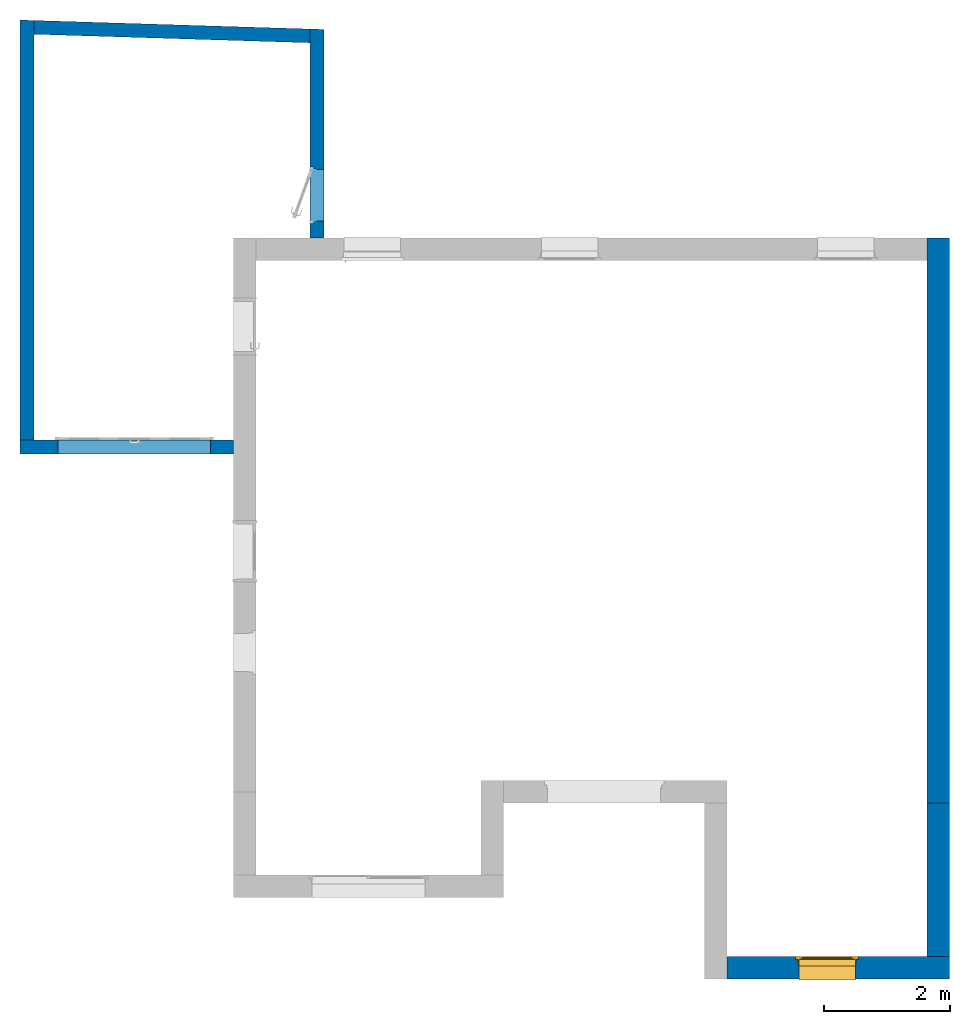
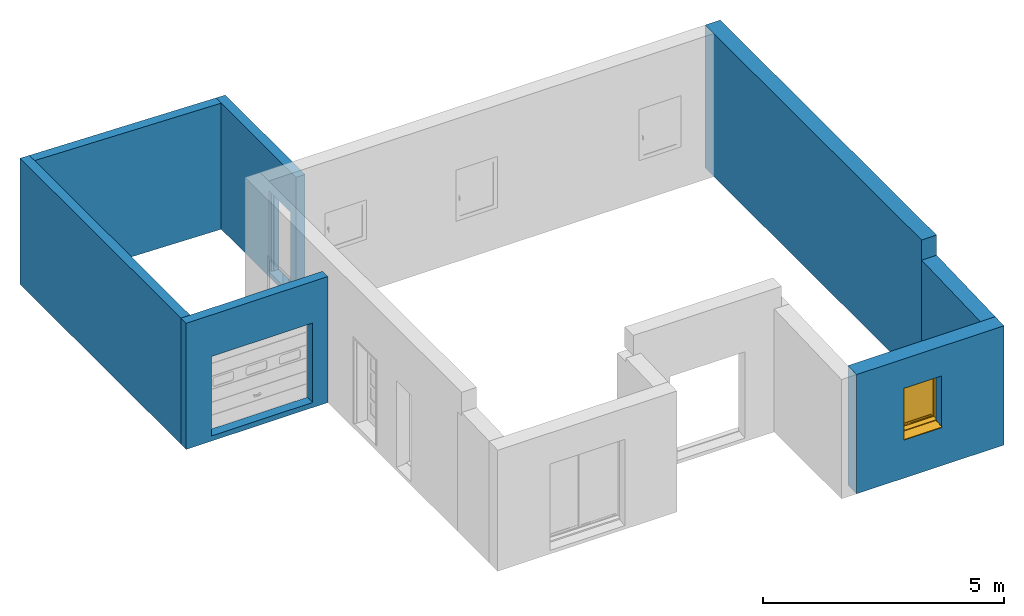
"""IFC2X3 building model written with IfcOpenShell, lengths in centimetres."""

from ifc_helpers import new_model, entity, si_unit, converted_unit, derived_unit, direction, frame, frame_2d, origin, place, context, subcontext, project, spatial, polyline, rectangle, outline, extrude, clip, bounded_halfspace, faceted_brep, source, transform, mapped, material, material_list, layer, layer_set, layer_usage, type_object, type_shapes, element, fill, save


model = new_model("IFC2X3")

# Units and contexts
model_context = context("Model", 3, precision=0.001, world=origin(), true_north=direction((6.123031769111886e-17, 1.0)))
body_context = subcontext(model_context, "Body", "Model", "MODEL_VIEW")
ifc_project = project(units=[si_unit("LENGTHUNIT", "METRE", prefix="CENTI"), si_unit("AREAUNIT", "SQUARE_METRE"), si_unit("VOLUMEUNIT", "CUBIC_METRE"), converted_unit("PLANEANGLEUNIT", "DEGREE", entity("IfcRatioMeasure", 0.017453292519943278), si_unit("PLANEANGLEUNIT", "RADIAN"), dimensions=[0, 0, 0, 0, 0, 0, 0]), si_unit("MASSUNIT", "GRAM", prefix="KILO"), derived_unit("MASSDENSITYUNIT", [(si_unit("MASSUNIT", "GRAM", prefix="KILO"), 1), (si_unit("LENGTHUNIT", "METRE"), -3)]), derived_unit("MOMENTOFINERTIAUNIT", [(si_unit("LENGTHUNIT", "METRE"), 4)]), si_unit("TIMEUNIT", "SECOND"), si_unit("FREQUENCYUNIT", "HERTZ"), si_unit("THERMODYNAMICTEMPERATUREUNIT", "DEGREE_CELSIUS"), derived_unit("THERMALTRANSMITTANCEUNIT", [(si_unit("MASSUNIT", "GRAM", prefix="KILO"), 1), (si_unit("THERMODYNAMICTEMPERATUREUNIT", "KELVIN"), -1), (si_unit("TIMEUNIT", "SECOND"), -3)]), derived_unit("THERMALCONDUCTANCEUNIT", [(si_unit("MASSUNIT", "GRAM", prefix="KILO"), 1), (si_unit("LENGTHUNIT", "METRE"), 1), (si_unit("THERMODYNAMICTEMPERATUREUNIT", "KELVIN"), -1), (si_unit("TIMEUNIT", "SECOND"), -3)]), derived_unit("VOLUMETRICFLOWRATEUNIT", [(si_unit("LENGTHUNIT", "METRE"), 3), (si_unit("TIMEUNIT", "SECOND"), -1)]), derived_unit("MASSFLOWRATEUNIT", [(si_unit("MASSUNIT", "GRAM", prefix="KILO"), 1), (si_unit("TIMEUNIT", "SECOND"), -1)]), derived_unit("ROTATIONALFREQUENCYUNIT", [(si_unit("TIMEUNIT", "SECOND"), -1)]), si_unit("ELECTRICCURRENTUNIT", "AMPERE"), si_unit("ELECTRICVOLTAGEUNIT", "VOLT"), si_unit("POWERUNIT", "WATT"), si_unit("FORCEUNIT", "NEWTON", prefix="KILO"), si_unit("ILLUMINANCEUNIT", "LUX"), si_unit("LUMINOUSFLUXUNIT", "LUMEN"), si_unit("LUMINOUSINTENSITYUNIT", "CANDELA"), derived_unit("USERDEFINED", [(si_unit("MASSUNIT", "GRAM", prefix="KILO"), -1), (si_unit("LENGTHUNIT", "METRE"), -2), (si_unit("TIMEUNIT", "SECOND"), 3), (si_unit("LUMINOUSFLUXUNIT", "LUMEN"), 1)]), derived_unit("USERDEFINED", [(si_unit("MASSUNIT", "GRAM", prefix="KILO"), 1), (si_unit("LENGTHUNIT", "METRE"), 3), (si_unit("TIMEUNIT", "SECOND"), -3), (si_unit("ELECTRICCURRENTUNIT", "AMPERE"), -2)]), derived_unit("USERDEFINED", [(si_unit("LENGTHUNIT", "METRE"), 2), (si_unit("TIMEUNIT", "SECOND"), -2)]), derived_unit("SOUNDPOWERUNIT", [(si_unit("MASSUNIT", "GRAM", prefix="KILO"), 1), (si_unit("LENGTHUNIT", "METRE"), 2), (si_unit("TIMEUNIT", "SECOND"), -3)]), derived_unit("SOUNDPRESSUREUNIT", [(si_unit("MASSUNIT", "GRAM", prefix="KILO"), 1), (si_unit("LENGTHUNIT", "METRE"), -1), (si_unit("TIMEUNIT", "SECOND"), -2)]), derived_unit("LINEARVELOCITYUNIT", [(si_unit("LENGTHUNIT", "METRE"), 1), (si_unit("TIMEUNIT", "SECOND"), -1)]), si_unit("PRESSUREUNIT", "PASCAL"), derived_unit("USERDEFINED", [(si_unit("LENGTHUNIT", "METRE"), -2), (si_unit("MASSUNIT", "GRAM", prefix="KILO"), 1), (si_unit("TIMEUNIT", "SECOND"), -2)]), derived_unit("LINEARFORCEUNIT", [(si_unit("MASSUNIT", "GRAM", prefix="KILO"), 1), (si_unit("LENGTHUNIT", "METRE"), 1), (si_unit("TIMEUNIT", "SECOND"), -2), (si_unit("LENGTHUNIT", "METRE"), -1)]), derived_unit("PLANARFORCEUNIT", [(si_unit("MASSUNIT", "GRAM", prefix="KILO"), 1), (si_unit("LENGTHUNIT", "METRE"), 1), (si_unit("TIMEUNIT", "SECOND"), -2), (si_unit("LENGTHUNIT", "METRE"), -2)]), derived_unit("SPECIFICHEATCAPACITYUNIT", [(si_unit("LENGTHUNIT", "METRE"), 2), (si_unit("TIMEUNIT", "SECOND"), -2), (si_unit("THERMODYNAMICTEMPERATUREUNIT", "KELVIN"), -1)]), derived_unit("VAPORPERMEABILITYUNIT", [(si_unit("TIMEUNIT", "SECOND"), 1), (si_unit("LENGTHUNIT", "METRE"), -1)]), derived_unit("DYNAMICVISCOSITYUNIT", [(si_unit("MASSUNIT", "GRAM", prefix="KILO"), 1), (si_unit("LENGTHUNIT", "METRE"), -1), (si_unit("TIMEUNIT", "SECOND"), -1)]), derived_unit("THERMALEXPANSIONCOEFFICIENTUNIT", [(si_unit("THERMODYNAMICTEMPERATUREUNIT", "KELVIN"), -1)])], contexts=[model_context])

# Site, building, storey
site_placement = place(None, origin())
site = spatial("IfcSite", under=ifc_project, at=site_placement, Name="Default", CompositionType="ELEMENT")
building_placement = place(site_placement, origin())
building = spatial("IfcBuilding", under=site, at=building_placement, CompositionType="ELEMENT")
storey_1_placement = place(building_placement, frame((0.0, 0.0, -13.0)))
storey_1 = spatial("IfcBuildingStorey", under=building, at=storey_1_placement, Name="0_-0.13", CompositionType="ELEMENT", Elevation=-13.000000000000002)

# Wall, opening
ifc_material_1 = material(Name="Maçonnerie - Enduit")
ifc_layer_1 = layer(ifc_material_1, 2.0)
ifc_material_2 = material(Name="Maçonnerie - Béton")
ifc_layer_2 = layer(ifc_material_2, 20.0)
ifc_material_3 = material(Name="Mur par défaut")
ifc_layer_3 = layer(ifc_material_3, 14.0)
ifc_layer_set_1 = layer_set([ifc_layer_1, ifc_layer_2, ifc_layer_3], Name="Mur de base:Mur extérieur 36cm")
ifc_layer_usage_1 = layer_usage(ifc_layer_set_1, "AXIS2", "POSITIVE", -18.0)
wall_type_1 = type_object("IfcWallType", Name="Mur de base:Mur extérieur 36cm", PredefinedType="STANDARD", material=ifc_layer_set_1)
wall_1_placement = place(storey_1_placement, frame((63.931556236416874, -783.3533541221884, 0.0)))
wall_1 = element("IfcWallStandardCase", 1, at=wall_1_placement, inside=storey_1, type_object=wall_type_1, material=ifc_layer_usage_1, Name="Mur de base:Mur extérieur 36cm", ObjectType="Mur de base:Mur extérieur 36cm", context=body_context, shape_type="Clipping", body=[
    clip(extrude(rectangle(XDim=354.0000000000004, YDim=36.00000000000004, at=frame_2d((177.0000000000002, 0.0), x_axis=(-1.0, 0.0))), origin(), (0.0, 0.0, 1.0), 303.8611126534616), bounded_halfspace(frame((0.0, -18.0, 302.6611126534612), z_axis=(0.0, 0.03331483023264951, -0.9994449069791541), x_axis=(-1.0, 0.0, 0.0)), True, frame((0.0, -18.0, 302.6611126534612)), polyline([(0.0, 0.0), (354.0, 0.0), (354.0, 36.0), (0.0, 36.0), (0.0, 0.0)]))),
])
opening_1_placement = place(wall_1_placement, frame((109.0, -50.0, 95.61416282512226)))
opening_1 = element("IfcOpeningElement", 2, at=opening_1_placement, cuts=wall_1, Name="Mur de base:Mur extérieur 36cm", ObjectType="Opening", context=body_context, shape_type="Brep", body=[
    faceted_brep([(95.0, 56.0, 7.385837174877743), (95.0, 54.0, 7.385837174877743), (95.0, 54.0, 132.38583717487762), (95.0, 0.0, 132.38583717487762), (95.0, 0.0, 0.0), (95.0, 56.0, 5.885837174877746), (5.0, 100.0, 7.385837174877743), (5.0, 68.0, 7.385837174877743), (5.0, 68.0, 132.38583717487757), (5.0, 100.0, 132.38583717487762), (95.0, 100.0, 7.385837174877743), (95.0, 68.0, 7.385837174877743), (100.0, 68.0, 7.385837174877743), (100.0, 63.0, 7.385837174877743), (96.0, 63.0, 7.385837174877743), (96.0, 54.0, 7.385837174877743), (5.0, 56.0, 7.385837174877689), (5.0, 54.0, 7.385837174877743), (4.0, 54.0, 7.385837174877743), (4.0, 63.0, 7.385837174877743), (0.0, 63.0, 7.385837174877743), (0.0, 68.0, 7.385837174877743), (95.0, 100.0, 132.38583717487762), (5.0, 54.0, 132.38583717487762), (5.0, 0.0, 132.38583717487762), (5.0, 0.0, 0.0), (5.0, 56.0, 5.885837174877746), (100.0, 68.0, 137.3858371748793), (100.0, 63.0, 137.3858371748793), (0.0, 63.0, 137.3858371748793), (4.0, 63.0, 133.38583717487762), (96.0, 63.0, 133.38583717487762), (96.0, 54.0, 133.38583717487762), (4.0, 54.0, 133.38583717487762), (95.0, 68.0, 132.38583717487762), (0.0, 68.0, 137.3858371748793)], [[[0, 1, 2, 3, 4, 5]], [[6, 7, 8, 9]], [[10, 11, 12, 13, 14, 15, 1, 0, 16, 17, 18, 19, 20, 21, 7, 6]], [[10, 6, 9, 22]], [[3, 2, 23, 24]], [[3, 24, 25, 4]], [[4, 25, 26, 5]], [[5, 26, 16, 0]], [[12, 27, 28, 13]], [[13, 28, 29, 20, 19, 30, 31, 14]], [[14, 31, 32, 15]], [[15, 32, 33, 18, 17, 23, 2, 1]], [[11, 34, 8, 7, 21, 35, 27, 12]], [[27, 35, 29, 28]], [[30, 33, 32, 31]], [[29, 35, 21, 20]], [[19, 18, 33, 30]], [[9, 8, 34, 22]], [[24, 23, 17, 16, 26, 25]], [[22, 34, 11, 10]]]),
])

# Storey
storey_2_placement = place(building_placement, origin())
storey_2 = spatial("IfcBuildingStorey", under=building, at=storey_2_placement, Name="1_Rez-de-chaussée", CompositionType="ELEMENT", Elevation=0.0)

# Window
ifc_material_4 = material(Name="Fenêtre - Poignée")
ifc_material_5 = material(Name="Fenêtre - Appui")
ifc_material_6 = material(Name="Fenêtre - Vitrage")
ifc_material_7 = material(Name="Fenêtre - Cadre")
ifc_material_list = material_list([ifc_material_4, ifc_material_5, ifc_material_6, ifc_material_7])
window_style = type_object("IfcWindowStyle", Name="1 Vantail - Droit:0.90 m x 1.25 m", ConstructionType="NOTDEFINED", OperationType="NOTDEFINED", ParameterTakesPrecedence=False, Sizeable=False, material=ifc_material_list)
shared_shape = source(origin(), body_context, "Body", "Brep", [
    faceted_brep([(8.064600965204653, 31.39999999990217, 69.58923009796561), (8.203392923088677, 31.39999999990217, 69.45043814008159), (8.203392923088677, 31.39999999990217, 68.31906729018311), (8.066769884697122, 31.39999999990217, 68.18244425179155), (6.933230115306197, 31.39999999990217, 68.18244425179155), (6.796607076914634, 31.39999999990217, 68.31906729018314), (6.796607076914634, 31.39999999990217, 69.45043814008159), (6.935399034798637, 31.39999999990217, 69.58923009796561), (8.064600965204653, 30.10864511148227, 69.58923009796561), (8.203392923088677, 30.16613462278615, 69.45043814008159), (8.203392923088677, 28.83539903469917, 68.11970255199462), (8.203392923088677, 28.835399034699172, 59.3858371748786), (8.203392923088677, 29.966769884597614, 59.3858371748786), (8.203392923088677, 29.966769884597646, 67.65107340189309), (8.203392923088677, 30.634763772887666, 68.31906729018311), (8.066769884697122, 30.69135488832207, 68.18244425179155), (6.933230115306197, 30.69135488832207, 68.18244425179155), (6.796607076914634, 30.634763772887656, 68.31906729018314), (6.796607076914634, 29.9667698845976, 67.6510734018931), (6.796607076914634, 29.9667698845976, 59.3858371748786), (6.796607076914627, 28.835399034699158, 59.3858371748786), (6.796607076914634, 28.835399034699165, 68.11970255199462), (6.796607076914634, 30.16613462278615, 69.45043814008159), (6.935399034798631, 30.10864511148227, 69.58923009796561), (8.064600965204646, 28.696607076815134, 68.17719206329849), (8.066769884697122, 30.103392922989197, 67.59448228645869), (6.933230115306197, 30.103392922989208, 67.59448228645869), (6.935399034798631, 28.696607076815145, 68.17719206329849), (8.064600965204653, 28.696607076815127, 59.3858371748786), (6.935399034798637, 28.696607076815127, 59.3858371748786), (6.933230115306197, 30.103392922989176, 59.3858371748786), (8.066769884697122, 30.103392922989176, 59.3858371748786)], [[[0, 1, 2, 3, 4, 5, 6, 7]], [[1, 0, 8, 9]], [[2, 1, 9, 10, 11, 12, 13, 14]], [[3, 2, 14, 15]], [[4, 3, 15, 16]], [[5, 4, 16, 17]], [[6, 5, 17, 18, 19, 20, 21, 22]], [[7, 6, 22, 23]], [[0, 7, 23, 8]], [[9, 8, 24, 10]], [[15, 14, 13, 25]], [[16, 15, 25, 26]], [[17, 16, 26, 18]], [[23, 22, 21, 27]], [[8, 23, 27, 24]], [[28, 29, 20, 19, 30, 31, 12, 11]], [[10, 24, 28, 11]], [[25, 13, 12, 31]], [[26, 25, 31, 30]], [[18, 26, 30, 19]], [[27, 21, 20, 29]], [[24, 27, 29, 28]]]),
    faceted_brep([(8.200000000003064, 31.400000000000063, 71.38583717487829), (6.80000000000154, 31.400000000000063, 71.38583717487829), (6.300000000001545, 31.400000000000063, 70.8858371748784), (6.300000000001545, 31.400000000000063, 63.88583717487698), (6.8000000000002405, 31.400000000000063, 63.38583717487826), (8.200000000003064, 31.400000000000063, 63.38583717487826), (8.70000000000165, 31.400000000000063, 63.885837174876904), (8.70000000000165, 31.400000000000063, 70.8858371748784), (8.200000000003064, 32.0, 71.38583717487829), (8.70000000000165, 32.0, 70.8858371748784), (8.70000000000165, 32.0, 63.885837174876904), (8.200000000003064, 32.0, 63.38583717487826), (6.8000000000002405, 32.0, 63.38583717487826), (6.300000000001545, 32.0, 63.88583717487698), (6.300000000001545, 32.0, 70.8858371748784), (6.80000000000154, 32.0, 71.38583717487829)], [[[0, 1, 2, 3, 4, 5, 6, 7]], [[8, 9, 10, 11, 12, 13, 14, 15]], [[1, 0, 8, 15]], [[2, 1, 15, 14]], [[3, 2, 14, 13]], [[4, 3, 13, 12]], [[5, 4, 12, 11]], [[6, 5, 11, 10]], [[7, 6, 10, 9]], [[0, 7, 9, 8]]]),
    faceted_brep([(95.0, 69.50000000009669, 3.731200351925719), (95.0, 44.5000000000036, 6.3588062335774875), (95.0, 44.5000000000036, 7.38583717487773), (95.0, 44.0, 7.38583717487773), (95.0, 44.0, 5.885837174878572), (95.0, 69.0, 3.2582312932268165), (95.0, 69.0, 2.2281808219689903), (95.0, 69.5000000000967, 2.1756287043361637), (5.0, 69.5000000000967, 3.731200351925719), (5.0, 69.5000000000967, 2.1756287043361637), (5.0, 69.0, 2.2281808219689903), (5.0, 69.0, 3.2582312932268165), (5.0, 44.0, 5.885837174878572), (5.0, 44.0, 7.38583717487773), (5.0, 44.50000000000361, 7.38583717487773), (5.0, 44.50000000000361, 6.3588062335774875)], [[[0, 1, 2, 3, 4, 5, 6, 7]], [[8, 9, 10, 11, 12, 13, 14, 15]], [[1, 0, 8, 15]], [[2, 1, 15, 14]], [[3, 2, 14, 13]], [[4, 3, 13, 12]], [[5, 4, 12, 11]], [[6, 5, 11, 10]], [[7, 6, 10, 9]], [[0, 7, 9, 8]]]),
    faceted_brep([(5.0, 69.50000000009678, 3.8737928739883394), (5.0, 69.50000000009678, 3.731200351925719), (5.0, 44.50000000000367, 6.3588062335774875), (5.0, 44.50000000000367, 6.861560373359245), (5.0, 69.14181138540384, 4.271601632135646), (5.0, 69.39725793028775, 4.14144511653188), (5.500000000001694, 44.50000000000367, 6.861560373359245), (5.500000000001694, 44.50000000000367, 6.3588062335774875), (5.500000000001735, 69.50000000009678, 3.731200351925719), (5.500000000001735, 69.50000000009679, 3.8737928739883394), (5.500000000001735, 69.39725793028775, 4.14144511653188), (5.500000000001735, 69.14181138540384, 4.271601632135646)], [[[0, 1, 2, 3, 4, 5]], [[6, 7, 8, 9, 10, 11]], [[2, 1, 8, 7]], [[3, 2, 7, 6]], [[4, 3, 6, 11]], [[4, 11, 10, 5]], [[10, 9, 0, 5]], [[1, 0, 9, 8]]]),
    faceted_brep([(94.50000000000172, 69.50000000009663, 3.8737928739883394), (94.50000000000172, 69.50000000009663, 3.731200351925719), (94.50000000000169, 44.50000000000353, 6.3588062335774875), (94.50000000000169, 44.50000000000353, 6.861560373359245), (94.50000000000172, 69.14181138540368, 4.271601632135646), (94.50000000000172, 69.39725793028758, 4.14144511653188), (95.0, 44.50000000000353, 6.861560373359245), (95.0, 44.50000000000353, 6.3588062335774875), (95.0, 69.50000000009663, 3.731200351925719), (95.0, 69.50000000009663, 3.8737928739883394), (95.0, 69.39725793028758, 4.14144511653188), (95.0, 69.14181138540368, 4.271601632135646)], [[[0, 1, 2, 3, 4, 5]], [[6, 7, 8, 9, 10, 11]], [[2, 1, 8, 7]], [[3, 2, 7, 6]], [[4, 3, 6, 11]], [[4, 11, 10, 5]], [[10, 9, 0, 5]], [[1, 0, 9, 8]]]),
    faceted_brep([(10.0, 34.59999999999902, 17.385837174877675), (10.0, 34.59999999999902, 127.38583717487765), (90.0, 34.599999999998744, 127.38583717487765), (90.0, 34.599999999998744, 17.385837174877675), (10.0, 33.39999999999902, 17.385837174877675), (10.0, 33.39999999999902, 127.38583717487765), (90.0, 33.39999999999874, 127.38583717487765), (90.0, 33.39999999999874, 17.385837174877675)], [[[0, 1, 2, 3]], [[1, 0, 4, 5]], [[3, 2, 6, 7]], [[0, 3, 7, 4]], [[4, 7, 6, 5]], [[2, 1, 5, 6]]]),
    faceted_brep([(10.0, 36.0, 127.38583717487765), (10.0, 32.0, 127.38583717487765), (10.0, 32.0, 17.385837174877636), (10.0, 36.0, 17.38583717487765), (90.0, 32.0, 17.38583717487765), (90.0, 36.0, 17.385837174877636), (90.0, 32.0, 127.38583717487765), (95.0, 32.0, 12.385837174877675), (95.0, 32.0, 132.38583717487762), (5.0, 32.0, 132.3858371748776), (5.0, 32.0, 12.385837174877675), (90.0, 36.0, 127.38583717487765), (5.0, 36.0, 12.385837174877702), (5.0, 36.0, 132.3858371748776), (95.0, 36.0, 132.3858371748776), (95.0, 36.0, 12.38583717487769)], [[[0, 1, 2, 3]], [[3, 2, 4, 5]], [[2, 1, 6, 4], [7, 8, 9, 10]], [[5, 4, 6, 11]], [[5, 11, 0, 3], [12, 13, 14, 15]], [[9, 13, 12, 10]], [[10, 12, 15, 7]], [[7, 15, 14, 8]], [[11, 6, 1, 0]], [[8, 14, 13, 9]]], outer=[[True], [True], [False, True], [True], [False, True], [True], [True], [True], [True], [True]]),
    faceted_brep([(0.0, 32.0, 7.38583717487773), (0.0, 37.0, 7.38583717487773), (5.0, 37.0, 7.38583717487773), (5.0, 46.0, 7.38583717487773), (95.0, 46.0, 7.385837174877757), (95.0, 37.0, 7.38583717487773), (100.0, 37.0, 7.38583717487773), (100.0, 32.0, 7.38583717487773), (0.0, 32.0, 137.38583717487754), (0.0, 37.0, 137.38583717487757), (100.0, 37.0, 137.38583717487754), (95.0, 37.0, 11.323451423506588), (5.0, 37.0, 11.323451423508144), (6.500000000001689, 37.0, 130.8858371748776), (6.500000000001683, 37.0, 13.885837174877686), (93.50000000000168, 37.0, 13.885837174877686), (93.50000000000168, 37.0, 130.8858371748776), (5.0, 47.0, 8.643959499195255), (5.0, 47.0, 6.885837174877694), (5.0, 46.0, 6.885837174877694), (95.0, 46.0, 6.885837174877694), (95.0, 47.0, 6.885837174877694), (95.0, 47.0, 8.643959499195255), (100.0, 32.0, 137.38583717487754), (95.0, 32.0, 132.3858371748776), (95.0, 32.0, 12.38583717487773), (5.0, 32.0, 12.38583717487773), (5.0, 32.0, 132.3858371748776), (6.500000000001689, 36.0, 130.8858371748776), (6.500000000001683, 36.0, 13.885837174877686), (93.50000000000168, 36.0, 13.885837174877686), (93.50000000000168, 36.0, 130.8858371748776), (95.0, 36.0, 132.3858371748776), (5.0, 36.0, 132.3858371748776), (5.0, 36.0, 12.38583717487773), (95.0, 36.0, 12.38583717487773)], [[[0, 1, 2, 3, 4, 5, 6, 7]], [[1, 0, 8, 9]], [[1, 9, 10, 6, 5, 11, 12, 2], [13, 14, 15, 16]], [[12, 17, 18, 19, 3, 2]], [[3, 19, 20, 4]], [[4, 20, 21, 22, 11, 5]], [[6, 10, 23, 7]], [[0, 7, 23, 8], [24, 25, 26, 27]], [[13, 28, 29, 14]], [[29, 30, 15, 14]], [[31, 16, 15, 30]], [[17, 12, 11, 22]], [[32, 33, 34, 35], [28, 31, 30, 29]], [[34, 33, 27, 26]], [[26, 25, 35, 34]], [[24, 32, 35, 25]], [[18, 17, 22, 21]], [[19, 18, 21, 20]], [[13, 16, 31, 28]], [[33, 32, 24, 27]], [[10, 9, 8, 23]]]),
    faceted_brep([(5.0, 46.0, 7.38583717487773), (5.0, 37.0, 7.38583717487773), (4.0, 37.0, 7.38583717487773), (4.0, 46.0, 7.38583717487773), (5.0, 46.0, 132.3858371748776), (5.0, 37.0, 132.3858371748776), (95.0, 37.0, 132.3858371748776), (95.0, 37.0, 7.385837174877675), (96.0, 37.0, 7.38583717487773), (96.0, 37.0, 133.3858371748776), (4.0, 37.0, 133.3858371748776), (4.0, 46.0, 133.3858371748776), (96.0, 46.0, 133.3858371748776), (96.0, 46.0, 7.385837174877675), (95.0, 46.0, 7.38583717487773), (95.0, 46.0, 132.3858371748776)], [[[0, 1, 2, 3]], [[1, 0, 4, 5]], [[2, 1, 5, 6, 7, 8, 9, 10]], [[3, 2, 10, 11]], [[0, 3, 11, 12, 13, 14, 15, 4]], [[6, 15, 14, 7]], [[14, 13, 8, 7]], [[12, 9, 8, 13]], [[5, 4, 15, 6]], [[11, 10, 9, 12]]]),
])
type_shapes(window_style, [shared_shape])
window_placement = place(opening_1_placement, frame((100.0, 100.0, 0.0), z_axis=(0.0, 0.0, 1.0), x_axis=(-1.0, 0.0, 0.0)))
window = element("IfcWindow", 3, at=window_placement, inside=storey_2, type_object=window_style, material=ifc_material_list, Name="1 Vantail - Droit:0.90 m x 1.25 m", ObjectType="1 Vantail - Droit:0.90 m x 1.25 m", OverallHeight=138.00000000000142, OverallWidth=100.00000000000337, context=body_context, shape_type="MappedRepresentation", body=[
    mapped(shared_shape, transform((0.0, 0.0, 0.0), scale=1.0)),
])

fill(opening_1, window)

# Wall, opening
wall_2_placement = place(storey_1_placement, frame((399.9315562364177, -521.3533541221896, 0.0), z_axis=(0.0, 0.0, 1.0), x_axis=(0.0, 1.0, 0.0)))
wall_2 = element("IfcWallStandardCase", 4, at=wall_2_placement, inside=storey_1, type_object=wall_type_1, material=ifc_layer_usage_1, Name="Mur de base:Mur extérieur 36cm", ObjectType="Mur de base:Mur extérieur 36cm", context=body_context, shape_type="SweptSolid", body=[
    extrude(rectangle(XDim=900.0000000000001, YDim=36.00000000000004, at=frame_2d((450.0, 8.881784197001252e-15), x_axis=(-1.0, 0.0))), origin(), (0.0, 0.0, 1.0), 363.0000000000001),
])
opening_2_placement = place(wall_2_placement, origin())
element("IfcOpeningElement", 5, at=opening_2_placement, cuts=wall_2, Name="Mur de base:Mur extérieur 36cm", ObjectType="Opening", context=body_context, shape_type="SweptSolid", body=[
    extrude(rectangle(XDim=249.9999999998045, YDim=6.999999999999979, at=frame_2d((-2.708944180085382e-14, 0.0), x_axis=(0.0, 1.0))), frame((79.49999999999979, 18.0, 138.0), z_axis=(0.0, 1.0, 0.0), x_axis=(-1.0, 0.0, 0.0)), (0.0, 0.0, 1.0), 170.00000000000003),
])

# Wall, openings
ifc_layer_usage_2 = layer_usage(ifc_layer_set_1, "AXIS2", "NEGATIVE", 18.0)
wall_3_placement = place(storey_1_placement, frame((399.93155623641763, -521.3533541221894, 0.0), z_axis=(0.0, 0.0, 1.0), x_axis=(0.0, -1.0, 0.0)))
wall_3 = element("IfcWallStandardCase", 6, at=wall_3_placement, inside=storey_1, type_object=wall_type_1, material=ifc_layer_usage_2, Name="Mur de base:Mur extérieur 36cm", ObjectType="Mur de base:Mur extérieur 36cm", context=body_context, shape_type="Clipping", body=[
    clip(extrude(rectangle(XDim=244.00000000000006, YDim=36.00000000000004, at=frame_2d((122.00000000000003, 0.0), x_axis=(-1.0, 0.0))), origin(), (0.0, 0.0, 1.0), 311.9944459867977), bounded_halfspace(frame((0.0, -18.0, 311.9944459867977), z_axis=(-0.03331483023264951, 0.0, -0.9994449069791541), x_axis=(0.0, -1.0, 0.0)), True, frame((0.0, -18.0, 311.9944459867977)), polyline([(0.0, 0.0), (244.0, 0.0), (244.0, 36.0), (0.0, 36.0), (0.0, 0.0)]))),
])
opening_3_placement = place(wall_3_placement, origin())
element("IfcOpeningElement", 7, at=opening_3_placement, cuts=wall_3, Name="Mur de base:Mur extérieur 36cm", ObjectType="Opening", context=body_context, shape_type="SweptSolid", body=[
    extrude(rectangle(XDim=363.0, YDim=900.0, at=frame_2d((0.0, 1.4210854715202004e-14), x_axis=(0.0, 1.0))), frame((-450.0, -33.23999999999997, 181.50000000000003), z_axis=(0.0, 1.0, 0.0), x_axis=(-1.0, 0.0, 0.0)), (0.0, 0.0, 1.0), 66.47999999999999),
])
opening_4_placement = place(wall_3_placement, origin())
element("IfcOpeningElement", 8, at=opening_4_placement, cuts=wall_3, Name="Mur de base:Mur extérieur 36cm", ObjectType="Opening", context=body_context, shape_type="SweptSolid", body=[
    extrude(rectangle(XDim=249.9999999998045, YDim=6.999999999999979, at=frame_2d((-2.708944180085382e-14, 0.0), x_axis=(0.0, 1.0))), frame((-79.4999999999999, -188.0, 138.0), z_axis=(0.0, 1.0, 0.0), x_axis=(1.0, 0.0, 0.0)), (0.0, 0.0, 1.0), 170.00000000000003),
])

# Wall, opening
ifc_layer_4 = layer(ifc_material_1, 2.0)
ifc_layer_5 = layer(ifc_material_2, 20.0)
ifc_layer_set_2 = layer_set([ifc_layer_4, ifc_layer_5], Name="Mur de base:Mur extérieur 22cm")
ifc_layer_usage_3 = layer_usage(ifc_layer_set_2, "AXIS2", "NEGATIVE", 11.0)
wall_type_2 = type_object("IfcWallType", Name="Mur de base:Mur extérieur 22cm", PredefinedType="STANDARD", material=ifc_layer_set_2)
wall_4_placement = place(storey_1_placement, frame((-722.0684437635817, 45.646645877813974, 0.0), z_axis=(0.0, 0.0, 1.0), x_axis=(-1.0, 0.0, 0.0)))
wall_4 = element("IfcWallStandardCase", 9, at=wall_4_placement, inside=storey_1, type_object=wall_type_2, material=ifc_layer_usage_3, Name="Mur de base:Mur extérieur 22cm", ObjectType="Mur de base:Mur extérieur 22cm", context=body_context, shape_type="SweptSolid", body=[
    extrude(rectangle(XDim=340.0, YDim=22.0, at=frame_2d((170.0, -3.552713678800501e-15), x_axis=(-1.0, 0.0))), origin(), (0.0, 0.0, 1.0), 320.0),
])
opening_5_placement = place(wall_4_placement, frame((-722.0684437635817, 45.646645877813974, 13.0), z_axis=(0.0, 0.0, 1.0), x_axis=(-1.0, 0.0, 0.0)))
element("IfcOpeningElement", 10, at=opening_5_placement, cuts=wall_4, Name="Mur de base:Mur extérieur 22cm", ObjectType="Opening", context=body_context, shape_type="SweptSolid", body=[
    extrude(rectangle(XDim=201.5000000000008, YDim=242.999999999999, at=frame_2d((0.0, -5.684341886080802e-14), x_axis=(1.0, 0.0))), frame((-880.0684437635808, 86.64664587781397, 100.7500000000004), z_axis=(0.0, -1.0, 0.0), x_axis=(0.0, 0.0, -1.0)), (0.0, 0.0, 1.0), 82.00000000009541),
])

# Wall
wall_5_placement = place(storey_1_placement, frame((-1051.0684437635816, 56.64664587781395, 0.0), z_axis=(0.0, 0.0, 1.0), x_axis=(0.0, 1.0, 0.0)))
element("IfcWallStandardCase", 11, at=wall_5_placement, inside=storey_1, type_object=wall_type_2, material=ifc_layer_usage_3, Name="Mur de base:Mur extérieur 22cm", ObjectType="Mur de base:Mur extérieur 22cm", context=body_context, shape_type="SweptSolid", body=[
    extrude(outline(polyline([(668.3181818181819, -11.0), (669.0, 11.0), (0.0, 11.0), (0.0, -11.0), (646.3076189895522, -11.0), (668.3181818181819, -11.0)])), origin(), (0.0, 0.0, 1.0), 320.0),
])

# Wall, opening
ifc_layer_usage_4 = layer_usage(ifc_layer_set_2, "AXIS2", "POSITIVE", -11.0)
wall_6_placement = place(storey_1_placement, frame((-589.0684437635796, 378.64664587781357, 0.0), z_axis=(0.0, 0.0, 1.0), x_axis=(0.0, 1.0, 0.0)))
wall_6 = element("IfcWallStandardCase", 12, at=wall_6_placement, inside=storey_1, type_object=wall_type_2, material=ifc_layer_usage_4, Name="Mur de base:Mur extérieur 22cm", ObjectType="Mur de base:Mur extérieur 22cm", context=body_context, shape_type="SweptSolid", body=[
    extrude(outline(polyline([(332.0, -11.0), (332.6818181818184, 11.0), (310.67125535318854, 11.0), (0.0, 11.0), (0.0, -11.0), (332.0, -11.0)])), origin(), (0.0, 0.0, 1.0), 320.0),
])
opening_6_placement = place(wall_6_placement, frame((23.0, 41.0, 13.0), z_axis=(0.0, 0.0, 1.0), x_axis=(0.0, -1.0, 0.0)))
element("IfcOpeningElement", 13, at=opening_6_placement, cuts=wall_6, Name="Mur de base:Mur extérieur 22cm", ObjectType="Opening", context=body_context, shape_type="Brep", body=[
    faceted_brep([(0.0, 86.0, 201.0), (0.0, 4.0, 201.0), (29.200000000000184, 4.0, 201.0), (29.20000000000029, 86.0, 201.0), (82.0, 86.0, 0.0), (82.0, 4.0, 0.0), (40.0, 4.0, 0.0), (40.0, 3.0, 0.0), (35.20000000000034, 3.0, 0.0), (35.20000000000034, 0.0, 0.0), (29.200000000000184, 0.0, 0.0), (29.200000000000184, 4.0, 0.0), (0.0, 4.0, 0.0), (0.0, 86.0, 0.0), (29.20000000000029, 86.0, 0.0), (29.20000000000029, 90.0, 0.0), (35.20000000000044, 90.0, 0.0), (35.20000000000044, 87.0, 0.0), (40.0, 87.0, 0.0), (40.0, 86.0, 0.0), (82.0, 86.0, 201.0), (82.0, 4.0, 201.0), (40.0, 4.0, 201.0), (35.20000000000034, 3.0, 202.0), (35.20000000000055, 87.0, 202.0), (35.20000000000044, 90.0, 205.0), (35.20000000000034, 0.0, 205.0), (40.0, 3.0, 202.0), (40.0, 86.0, 201.0), (40.0, 87.0, 202.0), (29.200000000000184, 0.0, 205.0), (29.2000000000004, 90.0, 205.0)], [[[0, 1, 2, 3]], [[4, 5, 6, 7, 8, 9, 10, 11, 12, 13, 14, 15, 16, 17, 18, 19]], [[13, 0, 3, 14]], [[20, 21, 5, 4]], [[5, 21, 22, 6]], [[1, 0, 13, 12]], [[9, 8, 23, 24, 17, 16, 25, 26]], [[8, 7, 27, 23]], [[7, 6, 22, 28, 19, 18, 29, 27]], [[11, 10, 30, 31, 15, 14, 3, 2]], [[10, 9, 26, 30]], [[24, 23, 27, 29]], [[26, 25, 31, 30]], [[17, 24, 29, 18]], [[25, 16, 15, 31]], [[1, 12, 11, 2]], [[20, 4, 19, 28]], [[21, 20, 28, 22]]]),
])

# Wall
wall_7_placement = place(storey_1_placement, frame((-599.7276982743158, 700.3126223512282, 0.0), z_axis=(0.0, 0.0, 1.0), x_axis=(-0.9995201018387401, 0.030976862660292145, 0.0)))
element("IfcWallStandardCase", 14, at=wall_7_placement, inside=storey_1, type_object=wall_type_2, material=ifc_layer_usage_4, Name="Mur de base:Mur extérieur 22cm", ObjectType="Mur de base:Mur extérieur 22cm", context=body_context, shape_type="SweptSolid", body=[
    extrude(outline(polyline([(440.893074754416, -11.0), (440.2112565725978, 11.0), (0.0, 11.0), (0.6818181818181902, -11.0), (440.893074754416, -11.0)])), origin(), (0.0, 0.0, 1.0), 320.0),
])

save(model, "model.ifc")
